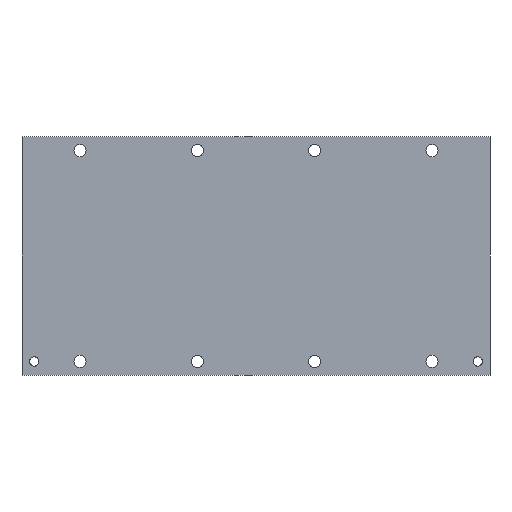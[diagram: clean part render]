
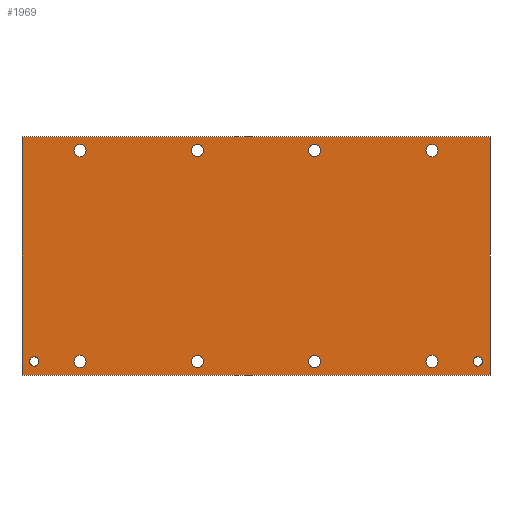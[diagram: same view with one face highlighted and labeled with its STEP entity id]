
A CAD part, front view. The second image highlights one B-rep face of the part: STEP entity #1969.
In plain terms, the highlighted planar face has unit normal (0, -1, 0).
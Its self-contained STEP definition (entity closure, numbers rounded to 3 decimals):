
#13=DIRECTION('',(0.,0.,1.));
#14=VECTOR('',#13,130.);
#15=CARTESIAN_POINT('',(127.65,0.,-65.));
#16=LINE('',#15,#14);
#17=DIRECTION('',(-1.,0.,0.));
#18=VECTOR('',#17,255.3);
#19=CARTESIAN_POINT('',(127.65,0.,65.));
#20=LINE('',#19,#18);
#21=DIRECTION('',(-1.,0.,0.));
#22=VECTOR('',#21,255.3);
#23=CARTESIAN_POINT('',(127.65,0.,-65.));
#24=LINE('',#23,#22);
#25=CARTESIAN_POINT('',(-96.,0.,-57.5));
#26=DIRECTION('',(0.,1.,0.));
#27=DIRECTION('',(1.,0.,0.));
#28=AXIS2_PLACEMENT_3D('',#25,#26,#27);
#30=CARTESIAN_POINT('',(-96.,0.,-57.5));
#31=DIRECTION('',(0.,1.,0.));
#32=DIRECTION('',(-1.,0.,0.));
#33=AXIS2_PLACEMENT_3D('',#30,#31,#32);
#35=CARTESIAN_POINT('',(-32.,0.,-57.5));
#36=DIRECTION('',(0.,1.,0.));
#37=DIRECTION('',(1.,0.,0.));
#38=AXIS2_PLACEMENT_3D('',#35,#36,#37);
#40=CARTESIAN_POINT('',(-32.,0.,-57.5));
#41=DIRECTION('',(0.,1.,0.));
#42=DIRECTION('',(-1.,0.,0.));
#43=AXIS2_PLACEMENT_3D('',#40,#41,#42);
#45=CARTESIAN_POINT('',(32.,0.,-57.5));
#46=DIRECTION('',(0.,1.,0.));
#47=DIRECTION('',(1.,0.,0.));
#48=AXIS2_PLACEMENT_3D('',#45,#46,#47);
#50=CARTESIAN_POINT('',(32.,0.,-57.5));
#51=DIRECTION('',(0.,1.,0.));
#52=DIRECTION('',(-1.,0.,0.));
#53=AXIS2_PLACEMENT_3D('',#50,#51,#52);
#55=CARTESIAN_POINT('',(96.,0.,-57.5));
#56=DIRECTION('',(0.,1.,0.));
#57=DIRECTION('',(1.,0.,0.));
#58=AXIS2_PLACEMENT_3D('',#55,#56,#57);
#60=CARTESIAN_POINT('',(96.,0.,-57.5));
#61=DIRECTION('',(0.,1.,0.));
#62=DIRECTION('',(-1.,0.,0.));
#63=AXIS2_PLACEMENT_3D('',#60,#61,#62);
#65=CARTESIAN_POINT('',(-96.,0.,57.5));
#66=DIRECTION('',(0.,1.,0.));
#67=DIRECTION('',(1.,0.,0.));
#68=AXIS2_PLACEMENT_3D('',#65,#66,#67);
#70=CARTESIAN_POINT('',(-96.,0.,57.5));
#71=DIRECTION('',(0.,1.,0.));
#72=DIRECTION('',(-1.,0.,0.));
#73=AXIS2_PLACEMENT_3D('',#70,#71,#72);
#75=CARTESIAN_POINT('',(-32.,0.,57.5));
#76=DIRECTION('',(0.,1.,0.));
#77=DIRECTION('',(1.,0.,0.));
#78=AXIS2_PLACEMENT_3D('',#75,#76,#77);
#80=CARTESIAN_POINT('',(-32.,0.,57.5));
#81=DIRECTION('',(0.,1.,0.));
#82=DIRECTION('',(-1.,0.,0.));
#83=AXIS2_PLACEMENT_3D('',#80,#81,#82);
#85=CARTESIAN_POINT('',(32.,0.,57.5));
#86=DIRECTION('',(0.,1.,0.));
#87=DIRECTION('',(1.,0.,0.));
#88=AXIS2_PLACEMENT_3D('',#85,#86,#87);
#90=CARTESIAN_POINT('',(32.,0.,57.5));
#91=DIRECTION('',(0.,1.,0.));
#92=DIRECTION('',(-1.,0.,0.));
#93=AXIS2_PLACEMENT_3D('',#90,#91,#92);
#95=CARTESIAN_POINT('',(96.,0.,57.5));
#96=DIRECTION('',(0.,1.,0.));
#97=DIRECTION('',(1.,0.,0.));
#98=AXIS2_PLACEMENT_3D('',#95,#96,#97);
#100=CARTESIAN_POINT('',(96.,0.,57.5));
#101=DIRECTION('',(0.,1.,0.));
#102=DIRECTION('',(-1.,0.,0.));
#103=AXIS2_PLACEMENT_3D('',#100,#101,#102);
#105=CARTESIAN_POINT('',(-121.,0.,-57.5));
#106=DIRECTION('',(0.,-1.,0.));
#107=DIRECTION('',(1.,0.,0.));
#108=AXIS2_PLACEMENT_3D('',#105,#106,#107);
#110=CARTESIAN_POINT('',(-121.,0.,-57.5));
#111=DIRECTION('',(0.,-1.,0.));
#112=DIRECTION('',(-1.,0.,0.));
#113=AXIS2_PLACEMENT_3D('',#110,#111,#112);
#115=CARTESIAN_POINT('',(121.,0.,-57.5));
#116=DIRECTION('',(0.,-1.,0.));
#117=DIRECTION('',(1.,0.,0.));
#118=AXIS2_PLACEMENT_3D('',#115,#116,#117);
#120=CARTESIAN_POINT('',(121.,0.,-57.5));
#121=DIRECTION('',(0.,-1.,0.));
#122=DIRECTION('',(-1.,0.,0.));
#123=AXIS2_PLACEMENT_3D('',#120,#121,#122);
#525=DIRECTION('',(0.,0.,1.));
#526=VECTOR('',#525,130.);
#527=CARTESIAN_POINT('',(-127.65,0.,-65.));
#528=LINE('',#527,#526);
#1417=CARTESIAN_POINT('',(127.65,0.,65.));
#1419=VERTEX_POINT('',#1417);
#1423=CARTESIAN_POINT('',(127.65,0.,-65.));
#1424=VERTEX_POINT('',#1423);
#1425=CARTESIAN_POINT('',(-127.65,0.,65.));
#1427=VERTEX_POINT('',#1425);
#1431=CARTESIAN_POINT('',(-127.65,0.,-65.));
#1432=VERTEX_POINT('',#1431);
#1693=CARTESIAN_POINT('',(-118.445,0.,-57.5));
#1694=CARTESIAN_POINT('',(-123.555,0.,-57.5));
#1695=VERTEX_POINT('',#1693);
#1696=VERTEX_POINT('',#1694);
#1701=CARTESIAN_POINT('',(123.555,0.,-57.5));
#1702=CARTESIAN_POINT('',(118.445,0.,-57.5));
#1703=VERTEX_POINT('',#1701);
#1704=VERTEX_POINT('',#1702);
#1717=CARTESIAN_POINT('',(-92.7,0.,-57.5));
#1718=CARTESIAN_POINT('',(-99.3,0.,-57.5));
#1719=VERTEX_POINT('',#1717);
#1720=VERTEX_POINT('',#1718);
#1733=CARTESIAN_POINT('',(-28.7,0.,-57.5));
#1734=CARTESIAN_POINT('',(-35.3,0.,-57.5));
#1735=VERTEX_POINT('',#1733);
#1736=VERTEX_POINT('',#1734);
#1749=CARTESIAN_POINT('',(35.3,0.,-57.5));
#1750=CARTESIAN_POINT('',(28.7,0.,-57.5));
#1751=VERTEX_POINT('',#1749);
#1752=VERTEX_POINT('',#1750);
#1765=CARTESIAN_POINT('',(99.3,0.,-57.5));
#1766=CARTESIAN_POINT('',(92.7,0.,-57.5));
#1767=VERTEX_POINT('',#1765);
#1768=VERTEX_POINT('',#1766);
#1781=CARTESIAN_POINT('',(-92.7,0.,57.5));
#1782=CARTESIAN_POINT('',(-99.3,0.,57.5));
#1783=VERTEX_POINT('',#1781);
#1784=VERTEX_POINT('',#1782);
#1797=CARTESIAN_POINT('',(-28.7,0.,57.5));
#1798=CARTESIAN_POINT('',(-35.3,0.,57.5));
#1799=VERTEX_POINT('',#1797);
#1800=VERTEX_POINT('',#1798);
#1813=CARTESIAN_POINT('',(35.3,0.,57.5));
#1814=CARTESIAN_POINT('',(28.7,0.,57.5));
#1815=VERTEX_POINT('',#1813);
#1816=VERTEX_POINT('',#1814);
#1829=CARTESIAN_POINT('',(99.3,0.,57.5));
#1830=CARTESIAN_POINT('',(92.7,0.,57.5));
#1831=VERTEX_POINT('',#1829);
#1832=VERTEX_POINT('',#1830);
#1896=CARTESIAN_POINT('',(127.65,0.,-65.));
#1897=DIRECTION('',(0.,-1.,0.));
#1898=DIRECTION('',(0.,0.,1.));
#1899=AXIS2_PLACEMENT_3D('',#1896,#1897,#1898);
#1900=PLANE('',#1899);
#1901=ORIENTED_EDGE('',*,*,#1876,.F.);
#1903=ORIENTED_EDGE('',*,*,#1902,.T.);
#1905=ORIENTED_EDGE('',*,*,#1904,.T.);
#1906=ORIENTED_EDGE('',*,*,#1887,.F.);
#1907=EDGE_LOOP('',(#1901,#1903,#1905,#1906));
#1908=FACE_OUTER_BOUND('',#1907,.F.);
#1910=ORIENTED_EDGE('',*,*,#1909,.F.);
#1912=ORIENTED_EDGE('',*,*,#1911,.F.);
#1913=EDGE_LOOP('',(#1910,#1912));
#1914=FACE_BOUND('',#1913,.F.);
#1916=ORIENTED_EDGE('',*,*,#1915,.F.);
#1918=ORIENTED_EDGE('',*,*,#1917,.F.);
#1919=EDGE_LOOP('',(#1916,#1918));
#1920=FACE_BOUND('',#1919,.F.);
#1922=ORIENTED_EDGE('',*,*,#1921,.F.);
#1924=ORIENTED_EDGE('',*,*,#1923,.F.);
#1925=EDGE_LOOP('',(#1922,#1924));
#1926=FACE_BOUND('',#1925,.F.);
#1928=ORIENTED_EDGE('',*,*,#1927,.F.);
#1930=ORIENTED_EDGE('',*,*,#1929,.F.);
#1931=EDGE_LOOP('',(#1928,#1930));
#1932=FACE_BOUND('',#1931,.F.);
#1934=ORIENTED_EDGE('',*,*,#1933,.F.);
#1936=ORIENTED_EDGE('',*,*,#1935,.F.);
#1937=EDGE_LOOP('',(#1934,#1936));
#1938=FACE_BOUND('',#1937,.F.);
#1940=ORIENTED_EDGE('',*,*,#1939,.F.);
#1942=ORIENTED_EDGE('',*,*,#1941,.F.);
#1943=EDGE_LOOP('',(#1940,#1942));
#1944=FACE_BOUND('',#1943,.F.);
#1946=ORIENTED_EDGE('',*,*,#1945,.F.);
#1948=ORIENTED_EDGE('',*,*,#1947,.F.);
#1949=EDGE_LOOP('',(#1946,#1948));
#1950=FACE_BOUND('',#1949,.F.);
#1952=ORIENTED_EDGE('',*,*,#1951,.F.);
#1954=ORIENTED_EDGE('',*,*,#1953,.F.);
#1955=EDGE_LOOP('',(#1952,#1954));
#1956=FACE_BOUND('',#1955,.F.);
#1958=ORIENTED_EDGE('',*,*,#1957,.T.);
#1960=ORIENTED_EDGE('',*,*,#1959,.T.);
#1961=EDGE_LOOP('',(#1958,#1960));
#1962=FACE_BOUND('',#1961,.F.);
#1964=ORIENTED_EDGE('',*,*,#1963,.T.);
#1966=ORIENTED_EDGE('',*,*,#1965,.T.);
#1967=EDGE_LOOP('',(#1964,#1966));
#1968=FACE_BOUND('',#1967,.F.);
#1969=ADVANCED_FACE('',(#1908,#1914,#1920,#1926,#1932,#1938,#1944,#1950,#1956,
#1962,#1968),#1900,.T.);
#29=CIRCLE('',#28,3.3);
#34=CIRCLE('',#33,3.3);
#39=CIRCLE('',#38,3.3);
#44=CIRCLE('',#43,3.3);
#49=CIRCLE('',#48,3.3);
#54=CIRCLE('',#53,3.3);
#59=CIRCLE('',#58,3.3);
#64=CIRCLE('',#63,3.3);
#69=CIRCLE('',#68,3.3);
#74=CIRCLE('',#73,3.3);
#79=CIRCLE('',#78,3.3);
#84=CIRCLE('',#83,3.3);
#89=CIRCLE('',#88,3.3);
#94=CIRCLE('',#93,3.3);
#99=CIRCLE('',#98,3.3);
#104=CIRCLE('',#103,3.3);
#109=CIRCLE('',#108,2.555);
#114=CIRCLE('',#113,2.555);
#119=CIRCLE('',#118,2.555);
#124=CIRCLE('',#123,2.555);
#1876=EDGE_CURVE('',#1424,#1419,#16,.T.);
#1887=EDGE_CURVE('',#1419,#1427,#20,.T.);
#1902=EDGE_CURVE('',#1424,#1432,#24,.T.);
#1904=EDGE_CURVE('',#1432,#1427,#528,.T.);
#1909=EDGE_CURVE('',#1719,#1720,#29,.T.);
#1911=EDGE_CURVE('',#1720,#1719,#34,.T.);
#1915=EDGE_CURVE('',#1735,#1736,#39,.T.);
#1917=EDGE_CURVE('',#1736,#1735,#44,.T.);
#1921=EDGE_CURVE('',#1751,#1752,#49,.T.);
#1923=EDGE_CURVE('',#1752,#1751,#54,.T.);
#1927=EDGE_CURVE('',#1767,#1768,#59,.T.);
#1929=EDGE_CURVE('',#1768,#1767,#64,.T.);
#1933=EDGE_CURVE('',#1783,#1784,#69,.T.);
#1935=EDGE_CURVE('',#1784,#1783,#74,.T.);
#1939=EDGE_CURVE('',#1799,#1800,#79,.T.);
#1941=EDGE_CURVE('',#1800,#1799,#84,.T.);
#1945=EDGE_CURVE('',#1815,#1816,#89,.T.);
#1947=EDGE_CURVE('',#1816,#1815,#94,.T.);
#1951=EDGE_CURVE('',#1831,#1832,#99,.T.);
#1953=EDGE_CURVE('',#1832,#1831,#104,.T.);
#1957=EDGE_CURVE('',#1695,#1696,#109,.T.);
#1959=EDGE_CURVE('',#1696,#1695,#114,.T.);
#1963=EDGE_CURVE('',#1703,#1704,#119,.T.);
#1965=EDGE_CURVE('',#1704,#1703,#124,.T.);
